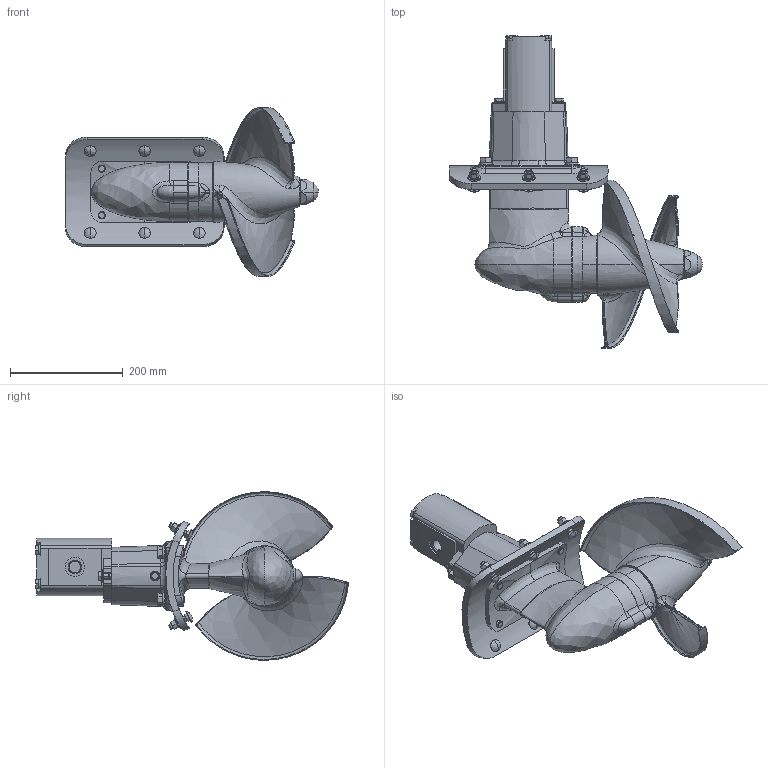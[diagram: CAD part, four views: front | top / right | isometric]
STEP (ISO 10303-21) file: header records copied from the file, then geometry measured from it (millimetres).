
FILE_DESCRIPTION (( 'STEP AP214' ), '1' );
FILE_NAME ('KP12X-H-TH_revA.STEP', '2020-11-19T22:50:36', ( '' ), ( '' ), 'SwSTEP 2.0', 'SolidWorks 2019', '' );
FILE_SCHEMA (( 'AUTOMOTIVE_DESIGN' ));
Length unit declared in the file: inch
Products named in the file (2): KP12X-H-TH_revA
Bounding box: 448.03 x 553.78 x 298.45 mm (x, y, z)
Volume: 6478595.9 mm3; surface area: 527199 mm2
Topology: 1 solids, 1 shells, 990 faces, 2415 edges, 1458 vertices
Faces by surface type: plane 357, cylinder 234, cone 192, bspline 171, torus 34, sphere 2
Entity records: 52135 total; most frequent: CARTESIAN_POINT 30553, ORIENTED_EDGE 4766, DIRECTION 4146, EDGE_CURVE 2383, AXIS2_PLACEMENT_3D 1656, VERTEX_POINT 1458, EDGE_LOOP 1057, FACE_OUTER_BOUND 990
